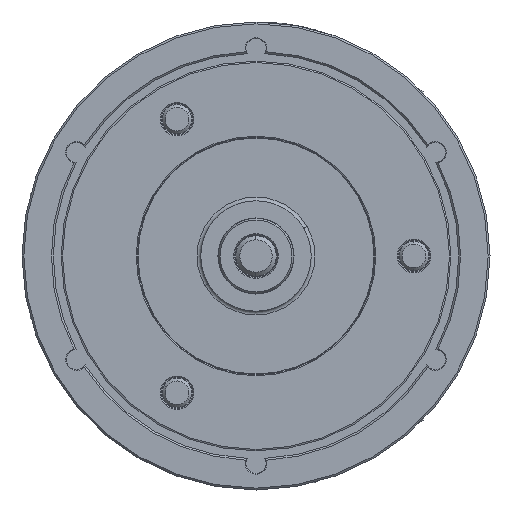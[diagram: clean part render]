
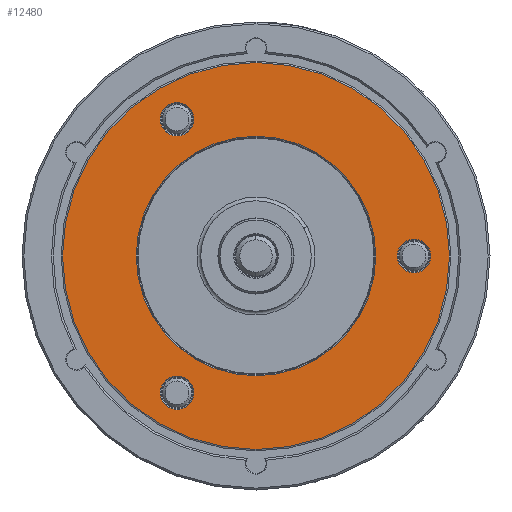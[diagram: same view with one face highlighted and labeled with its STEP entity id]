
A CAD part, left-side view. The second image highlights one B-rep face of the part: STEP entity #12480.
In plain terms, the highlighted planar face has unit normal (-1, 0, 0).
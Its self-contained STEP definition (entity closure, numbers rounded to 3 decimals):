
#711 = CARTESIAN_POINT ( 'NONE',  ( -100., -85.725, 9.1 ) ) ;
#1940 = VERTEX_POINT ( 'NONE', #40540 ) ;
#2453 = DIRECTION ( 'NONE',  ( 0., 0., -1. ) ) ;
#2992 = EDGE_LOOP ( 'NONE', ( #17878, #34790 ) ) ;
#3027 = EDGE_LOOP ( 'NONE', ( #15345, #33151 ) ) ;
#3089 = ORIENTED_EDGE ( 'NONE', *, *, #37139, .F. ) ;
#3249 = DIRECTION ( 'NONE',  ( 1., 0., 0. ) ) ;
#3796 = CIRCLE ( 'NONE', #6099, 65. ) ;
#3953 = PLANE ( 'NONE',  #10928 ) ;
#5038 = AXIS2_PLACEMENT_3D ( 'NONE', #35587, #45659, #9904 ) ;
#5257 = DIRECTION ( 'NONE',  ( 1., 0., 0. ) ) ;
#5297 = EDGE_CURVE ( 'NONE', #17128, #14089, #45725, .T. ) ;
#6099 = AXIS2_PLACEMENT_3D ( 'NONE', #12111, #26780, #16927 ) ;
#6713 = DIRECTION ( 'NONE',  ( 1., 0., 0. ) ) ;
#6879 = DIRECTION ( 'NONE',  ( 1., 0., 0. ) ) ;
#7336 = FACE_OUTER_BOUND ( 'NONE', #45851, .T. ) ;
#7543 = ORIENTED_EDGE ( 'NONE', *, *, #39086, .T. ) ;
#7842 = EDGE_LOOP ( 'NONE', ( #33967, #7543 ) ) ;
#9077 = CARTESIAN_POINT ( 'NONE',  ( -100., 42.862, -83.34 ) ) ;
#9531 = CARTESIAN_POINT ( 'NONE',  ( -100., 56.292, -32.5 ) ) ;
#9904 = DIRECTION ( 'NONE',  ( 0., 0., -1. ) ) ;
#10005 = CARTESIAN_POINT ( 'NONE',  ( -100., 42.863, 74.24 ) ) ;
#10233 = VERTEX_POINT ( 'NONE', #11302 ) ;
#10592 = CARTESIAN_POINT ( 'NONE',  ( -100., 42.862, -74.24 ) ) ;
#10928 = AXIS2_PLACEMENT_3D ( 'NONE', #32343, #6879, #36416 ) ;
#11235 = EDGE_CURVE ( 'NONE', #26194, #36367, #33109, .T. ) ;
#11302 = CARTESIAN_POINT ( 'NONE',  ( -100., -90.933, 52.5 ) ) ;
#12056 = DIRECTION ( 'NONE',  ( 1., 0., 0. ) ) ;
#12111 = CARTESIAN_POINT ( 'NONE',  ( -100., 0., 0. ) ) ;
#12480 = ADVANCED_FACE ( 'NONE', ( #35946, #40239, #22240, #7336, #18640 ), #3953, .F. ) ;
#13764 = DIRECTION ( 'NONE',  ( 0., 0., -1. ) ) ;
#13971 = CARTESIAN_POINT ( 'NONE',  ( -100., 42.863, 65.14 ) ) ;
#14089 = VERTEX_POINT ( 'NONE', #25274 ) ;
#14714 = AXIS2_PLACEMENT_3D ( 'NONE', #35396, #43538, #2453 ) ;
#15209 = CARTESIAN_POINT ( 'NONE',  ( -100., -85.725, 0. ) ) ;
#15345 = ORIENTED_EDGE ( 'NONE', *, *, #5297, .T. ) ;
#16545 = DIRECTION ( 'NONE',  ( 1., 0., 0. ) ) ;
#16616 = AXIS2_PLACEMENT_3D ( 'NONE', #35861, #39939, #13764 ) ;
#16927 = DIRECTION ( 'NONE',  ( 0., 0., -1. ) ) ;
#17001 = EDGE_CURVE ( 'NONE', #36104, #42699, #31180, .T. ) ;
#17128 = VERTEX_POINT ( 'NONE', #711 ) ;
#17878 = ORIENTED_EDGE ( 'NONE', *, *, #31138, .T. ) ;
#18035 = DIRECTION ( 'NONE',  ( 1., 0., 0. ) ) ;
#18514 = DIRECTION ( 'NONE',  ( 0., 0., -1. ) ) ;
#18640 = FACE_BOUND ( 'NONE', #47379, .T. ) ;
#18830 = CARTESIAN_POINT ( 'NONE',  ( -100., 42.862, -65.14 ) ) ;
#19293 = VERTEX_POINT ( 'NONE', #9531 ) ;
#19369 = EDGE_CURVE ( 'NONE', #42699, #36104, #41341, .T. ) ;
#21103 = EDGE_CURVE ( 'NONE', #19293, #29751, #29898, .T. ) ;
#21388 = DIRECTION ( 'NONE',  ( 0., 0., -1. ) ) ;
#22240 = FACE_BOUND ( 'NONE', #7842, .T. ) ;
#22834 = DIRECTION ( 'NONE',  ( 0., 0., -1. ) ) ;
#23053 = CARTESIAN_POINT ( 'NONE',  ( -100., 0., 0. ) ) ;
#23541 = CARTESIAN_POINT ( 'NONE',  ( -100., 0., 0. ) ) ;
#24663 = DIRECTION ( 'NONE',  ( 0., 0., -1. ) ) ;
#25061 = AXIS2_PLACEMENT_3D ( 'NONE', #15209, #12056, #44707 ) ;
#25274 = CARTESIAN_POINT ( 'NONE',  ( -100., -85.725, -9.1 ) ) ;
#25517 = AXIS2_PLACEMENT_3D ( 'NONE', #23541, #5257, #22834 ) ;
#26194 = VERTEX_POINT ( 'NONE', #9077 ) ;
#26780 = DIRECTION ( 'NONE',  ( 1., 0., 0. ) ) ;
#28381 = AXIS2_PLACEMENT_3D ( 'NONE', #23053, #16545, #34307 ) ;
#29511 = CARTESIAN_POINT ( 'NONE',  ( -100., 42.863, 83.34 ) ) ;
#29751 = VERTEX_POINT ( 'NONE', #41990 ) ;
#29898 = CIRCLE ( 'NONE', #28381, 65. ) ;
#29991 = ORIENTED_EDGE ( 'NONE', *, *, #19369, .T. ) ;
#31138 = EDGE_CURVE ( 'NONE', #36367, #26194, #33216, .T. ) ;
#31180 = CIRCLE ( 'NONE', #16616, 9.1 ) ;
#31644 = ORIENTED_EDGE ( 'NONE', *, *, #17001, .T. ) ;
#32343 = CARTESIAN_POINT ( 'NONE',  ( -100., -105., 0. ) ) ;
#33109 = CIRCLE ( 'NONE', #14714, 9.1 ) ;
#33151 = ORIENTED_EDGE ( 'NONE', *, *, #38031, .T. ) ;
#33200 = AXIS2_PLACEMENT_3D ( 'NONE', #45146, #6713, #21388 ) ;
#33216 = CIRCLE ( 'NONE', #40887, 9.1 ) ;
#33967 = ORIENTED_EDGE ( 'NONE', *, *, #21103, .T. ) ;
#34307 = DIRECTION ( 'NONE',  ( 0., 0., -1. ) ) ;
#34790 = ORIENTED_EDGE ( 'NONE', *, *, #11235, .T. ) ;
#35396 = CARTESIAN_POINT ( 'NONE',  ( -100., 42.862, -74.24 ) ) ;
#35587 = CARTESIAN_POINT ( 'NONE',  ( -100., 0., 0. ) ) ;
#35709 = CIRCLE ( 'NONE', #5038, 105. ) ;
#35861 = CARTESIAN_POINT ( 'NONE',  ( -100., 42.863, 74.24 ) ) ;
#35946 = FACE_BOUND ( 'NONE', #3027, .T. ) ;
#36104 = VERTEX_POINT ( 'NONE', #29511 ) ;
#36367 = VERTEX_POINT ( 'NONE', #18830 ) ;
#36416 = DIRECTION ( 'NONE',  ( 0., 0., -1. ) ) ;
#37139 = EDGE_CURVE ( 'NONE', #10233, #1940, #42359, .T. ) ;
#38031 = EDGE_CURVE ( 'NONE', #14089, #17128, #39335, .T. ) ;
#38743 = ORIENTED_EDGE ( 'NONE', *, *, #45252, .F. ) ;
#39086 = EDGE_CURVE ( 'NONE', #29751, #19293, #3796, .T. ) ;
#39335 = CIRCLE ( 'NONE', #33200, 9.1 ) ;
#39855 = AXIS2_PLACEMENT_3D ( 'NONE', #10005, #3249, #24663 ) ;
#39939 = DIRECTION ( 'NONE',  ( 1., 0., 0. ) ) ;
#40239 = FACE_BOUND ( 'NONE', #2992, .T. ) ;
#40540 = CARTESIAN_POINT ( 'NONE',  ( -100., 90.933, -52.5 ) ) ;
#40887 = AXIS2_PLACEMENT_3D ( 'NONE', #10592, #18035, #18514 ) ;
#41341 = CIRCLE ( 'NONE', #39855, 9.1 ) ;
#41990 = CARTESIAN_POINT ( 'NONE',  ( -100., -56.292, 32.5 ) ) ;
#42359 = CIRCLE ( 'NONE', #25517, 105. ) ;
#42699 = VERTEX_POINT ( 'NONE', #13971 ) ;
#43538 = DIRECTION ( 'NONE',  ( 1., 0., 0. ) ) ;
#44707 = DIRECTION ( 'NONE',  ( 0., 0., -1. ) ) ;
#45146 = CARTESIAN_POINT ( 'NONE',  ( -100., -85.725, 0. ) ) ;
#45252 = EDGE_CURVE ( 'NONE', #1940, #10233, #35709, .T. ) ;
#45659 = DIRECTION ( 'NONE',  ( 1., 0., 0. ) ) ;
#45725 = CIRCLE ( 'NONE', #25061, 9.1 ) ;
#45851 = EDGE_LOOP ( 'NONE', ( #3089, #38743 ) ) ;
#47379 = EDGE_LOOP ( 'NONE', ( #31644, #29991 ) ) ;
